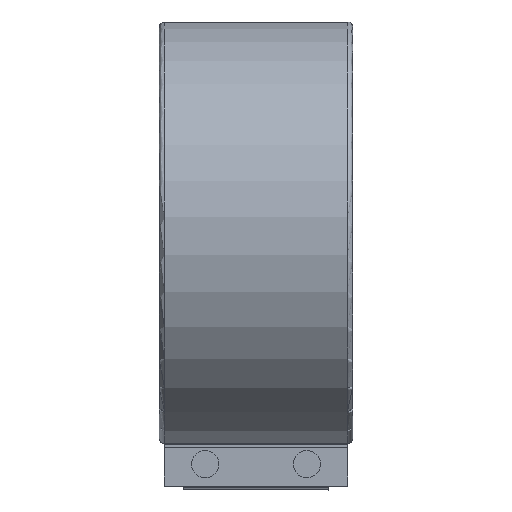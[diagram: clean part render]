
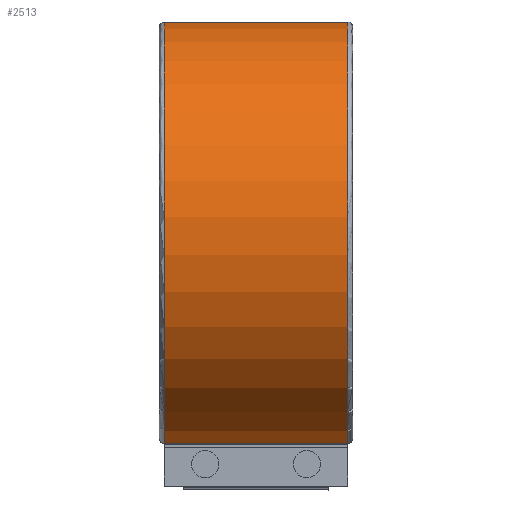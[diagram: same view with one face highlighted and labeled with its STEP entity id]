
A CAD part, top view. The second image highlights one B-rep face of the part: STEP entity #2513.
In plain terms, the highlighted cylindrical face has radius 63.25 mm (diameter 126.5 mm), a partial arc.
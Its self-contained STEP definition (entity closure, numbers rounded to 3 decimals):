
#66=CYLINDRICAL_SURFACE('',#2748,63.25);
#221=CIRCLE('',#2749,63.25);
#222=CIRCLE('',#2750,63.25);
#223=CIRCLE('',#2751,63.25);
#224=CIRCLE('',#2752,63.25);
#225=CIRCLE('',#2753,63.25);
#226=CIRCLE('',#2754,63.25);
#363=FACE_OUTER_BOUND('',#567,.T.);
#567=EDGE_LOOP('',(#1917,#1918,#1919,#1920,#1921,#1922,#1923,#1924));
#742=LINE('',#4080,#928);
#746=LINE('',#4110,#932);
#928=VECTOR('',#3279,54.);
#932=VECTOR('',#3319,54.);
#1137=VERTEX_POINT('',#4077);
#1138=VERTEX_POINT('',#4079);
#1141=VERTEX_POINT('',#4099);
#1142=VERTEX_POINT('',#4100);
#1143=VERTEX_POINT('',#4103);
#1144=VERTEX_POINT('',#4105);
#1145=VERTEX_POINT('',#4107);
#1146=VERTEX_POINT('',#4109);
#1401=EDGE_CURVE('',#1137,#1138,#742,.T.);
#1414=EDGE_CURVE('',#1141,#1142,#221,.T.);
#1415=EDGE_CURVE('',#1138,#1141,#222,.T.);
#1416=EDGE_CURVE('',#1137,#1143,#223,.T.);
#1417=EDGE_CURVE('',#1143,#1144,#224,.T.);
#1418=EDGE_CURVE('',#1144,#1145,#225,.T.);
#1419=EDGE_CURVE('',#1146,#1145,#746,.T.);
#1420=EDGE_CURVE('',#1142,#1146,#226,.T.);
#1917=ORIENTED_EDGE('',*,*,#1414,.F.);
#1918=ORIENTED_EDGE('',*,*,#1415,.F.);
#1919=ORIENTED_EDGE('',*,*,#1401,.F.);
#1920=ORIENTED_EDGE('',*,*,#1416,.T.);
#1921=ORIENTED_EDGE('',*,*,#1417,.T.);
#1922=ORIENTED_EDGE('',*,*,#1418,.T.);
#1923=ORIENTED_EDGE('',*,*,#1419,.F.);
#1924=ORIENTED_EDGE('',*,*,#1420,.F.);
#2513=ADVANCED_FACE('',(#363),#66,.T.);
#2748=AXIS2_PLACEMENT_3D('',#4098,#3307,#3308);
#2749=AXIS2_PLACEMENT_3D('',#4101,#3309,#3310);
#2750=AXIS2_PLACEMENT_3D('',#4102,#3311,#3312);
#2751=AXIS2_PLACEMENT_3D('',#4104,#3313,#3314);
#2752=AXIS2_PLACEMENT_3D('',#4106,#3315,#3316);
#2753=AXIS2_PLACEMENT_3D('',#4108,#3317,#3318);
#2754=AXIS2_PLACEMENT_3D('',#4111,#3320,#3321);
#3279=DIRECTION('',(-1.,0.,0.));
#3307=DIRECTION('center_axis',(-1.,0.,0.));
#3308=DIRECTION('ref_axis',(0.,-0.968,0.251));
#3309=DIRECTION('center_axis',(-1.,0.,0.));
#3310=DIRECTION('ref_axis',(0.,-0.966,0.259));
#3311=DIRECTION('center_axis',(-1.,0.,0.));
#3312=DIRECTION('ref_axis',(0.,-0.968,0.251));
#3313=DIRECTION('center_axis',(-1.,0.,0.));
#3314=DIRECTION('ref_axis',(0.,-0.968,0.251));
#3315=DIRECTION('center_axis',(-1.,0.,0.));
#3316=DIRECTION('ref_axis',(0.,1.,0.));
#3317=DIRECTION('center_axis',(-1.,0.,0.));
#3318=DIRECTION('ref_axis',(0.,-0.968,0.251));
#3319=DIRECTION('',(1.,0.,0.));
#3320=DIRECTION('center_axis',(-1.,0.,0.));
#3321=DIRECTION('ref_axis',(0.,-0.968,0.251));
#4077=CARTESIAN_POINT('',(27.,-61.219,15.9));
#4079=CARTESIAN_POINT('',(-27.,-61.219,15.9));
#4080=CARTESIAN_POINT('',(27.,-61.219,15.9));
#4098=CARTESIAN_POINT('Origin',(0.511,0.,
0.));
#4099=CARTESIAN_POINT('',(-27.,-61.095,16.37));
#4100=CARTESIAN_POINT('',(-27.,-61.095,-16.37));
#4101=CARTESIAN_POINT('Origin',(-27.,0.,
0.));
#4102=CARTESIAN_POINT('Origin',(-27.,0.,0.));
#4103=CARTESIAN_POINT('',(27.,-61.095,16.37));
#4104=CARTESIAN_POINT('Origin',(27.,0.,
0.));
#4105=CARTESIAN_POINT('',(27.,-61.095,-16.37));
#4106=CARTESIAN_POINT('Origin',(27.,0.,
0.));
#4107=CARTESIAN_POINT('',(27.,-61.219,-15.9));
#4108=CARTESIAN_POINT('Origin',(27.,0.,
0.));
#4109=CARTESIAN_POINT('',(-27.,-61.219,-15.9));
#4110=CARTESIAN_POINT('',(-27.,-61.219,-15.9));
#4111=CARTESIAN_POINT('Origin',(-27.,0.,0.));
